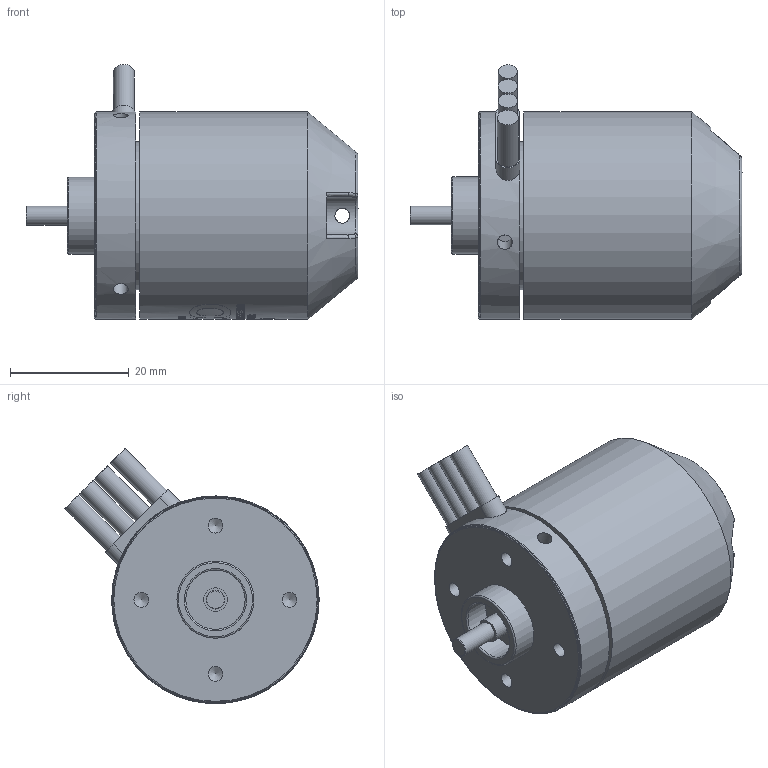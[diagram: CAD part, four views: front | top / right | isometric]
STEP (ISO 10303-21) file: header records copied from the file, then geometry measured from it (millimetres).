
FILE_DESCRIPTION(/* description */ (''),/* implementation_level */ '2;1');
FILE_NAME(/* name */ 'Neo 550 Motor .step',/* time_stamp */ '2022-12-29T16:10:47-08:00',/* author */ (''),/* organization */ (''),/* preprocessor_version */ 'ST-DEVELOPER v19.2',/* originating_system */ 'Autodesk Translation Framework v11.17.0.187',/* authorisation */ '');
FILE_SCHEMA (('AUTOMOTIVE_DESIGN { 1 0 10303 214 3 1 1 }'));
Products named in the file (1): Neo 550 Motor
Bounding box: 56 x 42.91 x 43 mm (x, y, z)
Volume: 39785.7 mm3; surface area: 8712.9 mm2
Topology: 1 solids, 1 shells, 993 faces, 2738 edges, 1822 vertices
Faces by surface type: bspline 606, plane 275, cylinder 91, cone 12, torus 9
Full cylindrical faces by diameter (mm): 2.5 x14, 3.17 x1, 3.25 x3, 3.5 x1, 3.9 x1, 4 x2, 10 x1, 13 x1, 25 x1, 35 x2
Entity records: 49412 total; most frequent: CARTESIAN_POINT 27409, ORIENTED_EDGE 5456, DIRECTION 3026, EDGE_CURVE 2728, VERTEX_POINT 1822, LINE 1114, VECTOR 1114, EDGE_LOOP 1080
